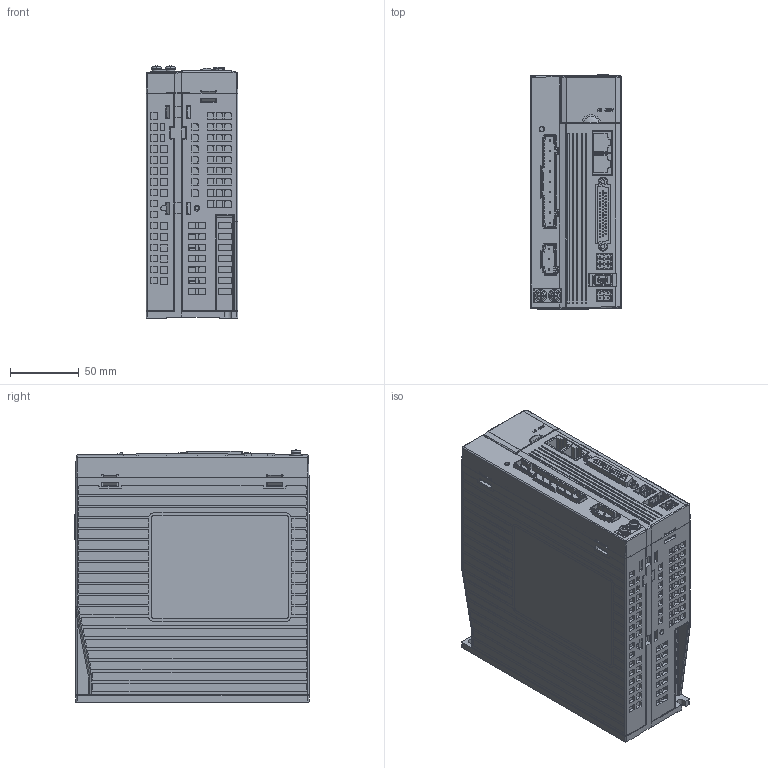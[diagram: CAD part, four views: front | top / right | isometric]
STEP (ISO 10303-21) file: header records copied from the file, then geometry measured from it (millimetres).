
FILE_DESCRIPTION((''),'2;1');
FILE_NAME('DA200A-N-5R5-T-2_SW0001','2024-03-18T15:36:09',('zhaihongyi'),(''),'CREO PARAMETRIC BY PTC INC, 2019080','CREO PARAMETRIC BY PTC INC, 2019080','');
FILE_SCHEMA(('AUTOMOTIVE_DESIGN { 1 0 10303 214 1 1 1 1 }'));
Products named in the file (1): DA200A-N-5R5-T-2_SW0001
Bounding box: 67.01 x 170.55 x 183.62 mm (x, y, z)
Volume: 1736489.4 mm3; surface area: 271969.4 mm2
Topology: 3 solids, 4 shells, 6491 faces, 18134 edges, 11780 vertices
Faces by surface type: plane 3817, cylinder 2144, torus 204, bspline 160, cone 97, sphere 58, extrusion 11
Entity records: 274983 total; most frequent: CARTESIAN_POINT 55073, ORIENTED_EDGE 36210, DIRECTION 31709, PRESENTATION_STYLE_ASSIGNMENT 18109, STYLED_ITEM 18109, CURVE_STYLE 18106, EDGE_CURVE 18105, VECTOR 12764
